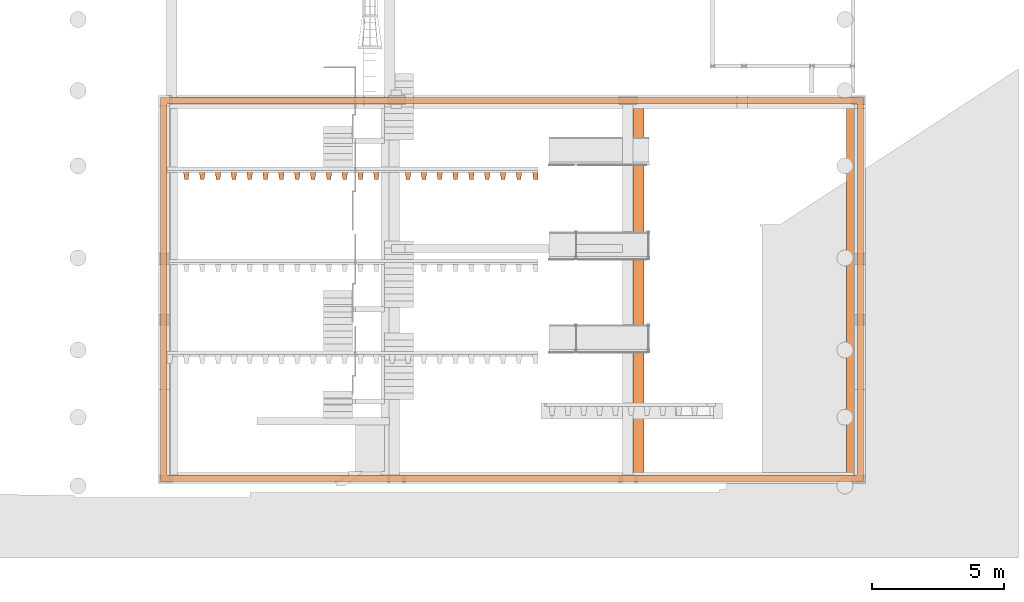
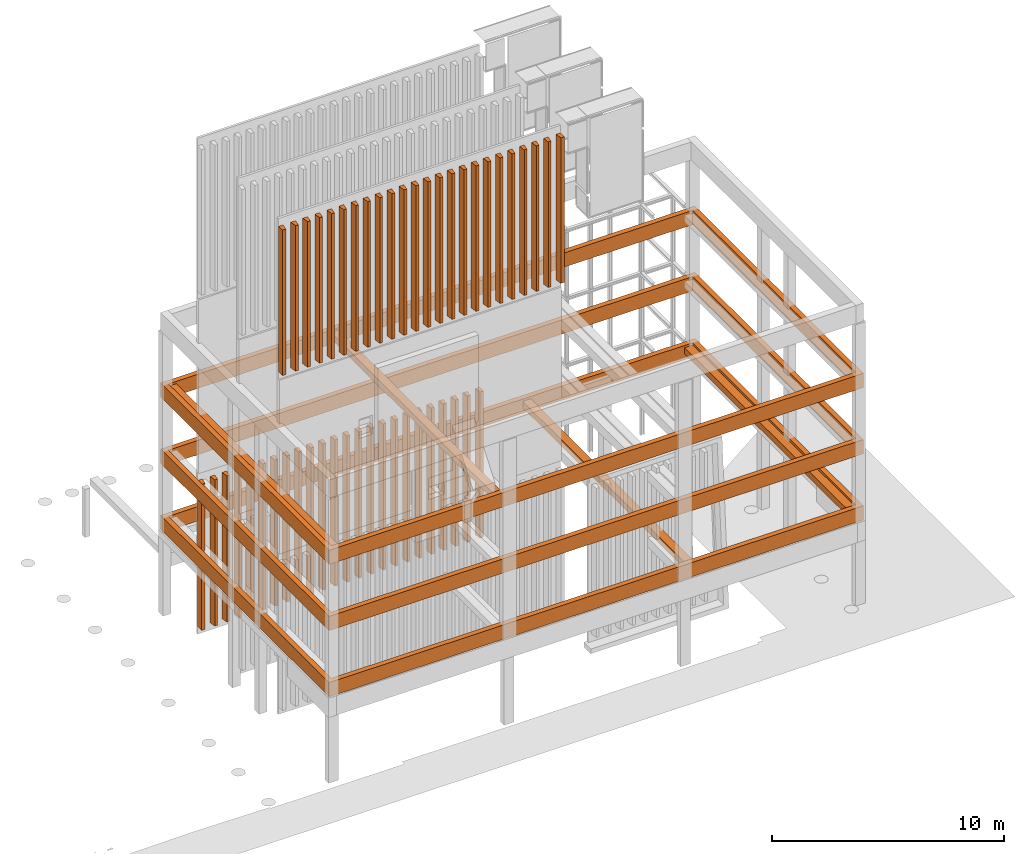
# One storey, part 13 of 15: 5 proxies.
"""IFC2X3 building model written with IfcOpenShell, lengths in metres."""

from ifc_helpers import new_model, entity, si_unit, converted_unit, derived_unit, money_unit, direction, frame, origin_with_axes, place, context, subcontext, project, spatial, faceted_brep, element, save


model = new_model("IFC2X3")

# Units and contexts
model_context = context("Model", 3, precision=1e-05, world=origin_with_axes(), true_north=direction((0.0, 1.0)))
body_context = subcontext(model_context, "Body", "Model", "MODEL_VIEW", scale=1.0)
ifc_project = project(units=[si_unit("LENGTHUNIT", "METRE"), si_unit("AREAUNIT", "SQUARE_METRE"), si_unit("VOLUMEUNIT", "CUBIC_METRE"), si_unit("ABSORBEDDOSEUNIT", "GRAY"), si_unit("AMOUNTOFSUBSTANCEUNIT", "MOLE"), si_unit("DOSEEQUIVALENTUNIT", "SIEVERT"), si_unit("ELECTRICCAPACITANCEUNIT", "FARAD"), si_unit("ELECTRICCHARGEUNIT", "COULOMB"), si_unit("ELECTRICCONDUCTANCEUNIT", "SIEMENS"), si_unit("ELECTRICCURRENTUNIT", "AMPERE"), si_unit("ELECTRICRESISTANCEUNIT", "OHM"), si_unit("ELECTRICVOLTAGEUNIT", "VOLT"), si_unit("ENERGYUNIT", "JOULE"), si_unit("FORCEUNIT", "NEWTON"), si_unit("FREQUENCYUNIT", "HERTZ"), si_unit("ILLUMINANCEUNIT", "LUX"), si_unit("INDUCTANCEUNIT", "HENRY"), si_unit("LUMINOUSFLUXUNIT", "LUMEN"), si_unit("LUMINOUSINTENSITYUNIT", "CANDELA"), si_unit("MAGNETICFLUXDENSITYUNIT", "TESLA"), si_unit("MAGNETICFLUXUNIT", "WEBER"), si_unit("MASSUNIT", "GRAM"), converted_unit("PLANEANGLEUNIT", "degree", entity("IfcReal", 0.0174532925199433), si_unit("PLANEANGLEUNIT", "RADIAN"), dimensions=[0, 0, 0, 0, 0, 0, 0]), si_unit("POWERUNIT", "WATT"), si_unit("PRESSUREUNIT", "PASCAL"), si_unit("RADIOACTIVITYUNIT", "BECQUEREL"), si_unit("SOLIDANGLEUNIT", "STERADIAN"), si_unit("THERMODYNAMICTEMPERATUREUNIT", "KELVIN"), si_unit("TIMEUNIT", "SECOND"), derived_unit("ACCELERATIONUNIT", [(si_unit("LENGTHUNIT", "METRE"), 1), (si_unit("TIMEUNIT", "SECOND"), -2)]), derived_unit("ANGULARVELOCITYUNIT", [(converted_unit("PLANEANGLEUNIT", "degree", entity("IfcReal", 0.0174532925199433), si_unit("PLANEANGLEUNIT", "RADIAN"), dimensions=[0, 0, 0, 0, 0, 0, 0]), 1), (si_unit("TIMEUNIT", "SECOND"), -1)]), derived_unit("CURVATUREUNIT", [(converted_unit("PLANEANGLEUNIT", "degree", entity("IfcReal", 0.0174532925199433), si_unit("PLANEANGLEUNIT", "RADIAN"), dimensions=[0, 0, 0, 0, 0, 0, 0]), 1), (si_unit("LENGTHUNIT", "METRE"), -1)]), derived_unit("DYNAMICVISCOSITYUNIT", [(si_unit("PRESSUREUNIT", "PASCAL"), 1), (si_unit("TIMEUNIT", "SECOND"), 1)]), derived_unit("HEATFLUXDENSITYUNIT", [(si_unit("POWERUNIT", "WATT"), 1), (si_unit("LENGTHUNIT", "METRE"), -2)]), derived_unit("HEATINGVALUEUNIT", [(si_unit("ENERGYUNIT", "JOULE"), 1), (si_unit("MASSUNIT", "GRAM"), -1)]), derived_unit("INTEGERCOUNTRATEUNIT", [(si_unit("TIMEUNIT", "SECOND"), -1)]), derived_unit("IONCONCENTRATIONUNIT", [(si_unit("MASSUNIT", "GRAM"), 1), (si_unit("VOLUMEUNIT", "CUBIC_METRE"), -1)]), derived_unit("ISOTHERMALMOISTURECAPACITYUNIT", [(si_unit("VOLUMEUNIT", "CUBIC_METRE"), 1), (si_unit("MASSUNIT", "GRAM"), -1)]), derived_unit("KINEMATICVISCOSITYUNIT", [(si_unit("AREAUNIT", "SQUARE_METRE"), 1), (si_unit("TIMEUNIT", "SECOND"), -1)]), derived_unit("LINEARFORCEUNIT", [(si_unit("FORCEUNIT", "NEWTON"), 1), (si_unit("LENGTHUNIT", "METRE"), -1)]), derived_unit("LINEARMOMENTUNIT", [(si_unit("FORCEUNIT", "NEWTON"), 1), (si_unit("LENGTHUNIT", "METRE"), -1)]), derived_unit("LINEARSTIFFNESSUNIT", [(si_unit("FORCEUNIT", "NEWTON"), 1), (si_unit("LENGTHUNIT", "METRE"), -1)]), derived_unit("LINEARVELOCITYUNIT", [(si_unit("LENGTHUNIT", "METRE"), 1), (si_unit("TIMEUNIT", "SECOND"), -1)]), derived_unit("LUMINOUSINTENSITYDISTRIBUTIONUNIT", [(si_unit("LUMINOUSINTENSITYUNIT", "CANDELA"), 1), (si_unit("LUMINOUSFLUXUNIT", "LUMEN"), -1)]), derived_unit("MASSDENSITYUNIT", [(si_unit("MASSUNIT", "GRAM"), 1), (si_unit("VOLUMEUNIT", "CUBIC_METRE"), -1)]), derived_unit("MASSFLOWRATEUNIT", [(si_unit("MASSUNIT", "GRAM"), 1), (si_unit("TIMEUNIT", "SECOND"), -1)]), derived_unit("MASSPERLENGTHUNIT", [(si_unit("MASSUNIT", "GRAM"), 1), (si_unit("LENGTHUNIT", "METRE"), -1)]), derived_unit("MODULUSOFELASTICITYUNIT", [(si_unit("FORCEUNIT", "NEWTON"), 1), (si_unit("AREAUNIT", "SQUARE_METRE"), -1)]), derived_unit("MODULUSOFLINEARSUBGRADEREACTIONUNIT", [(si_unit("FORCEUNIT", "NEWTON"), 1), (si_unit("LENGTHUNIT", "METRE"), -2)]), derived_unit("MODULUSOFROTATIONALSUBGRADEREACTIONUNIT", [(si_unit("FORCEUNIT", "NEWTON"), 1), (si_unit("LENGTHUNIT", "METRE"), 1)]), derived_unit("MODULUSOFSUBGRADEREACTIONUNIT", [(si_unit("FORCEUNIT", "NEWTON"), 1), (si_unit("VOLUMEUNIT", "CUBIC_METRE"), -1)]), derived_unit("MOISTUREDIFFUSIVITYUNIT", [(si_unit("VOLUMEUNIT", "CUBIC_METRE"), 1), (si_unit("TIMEUNIT", "SECOND"), -1)]), derived_unit("MOLECULARWEIGHTUNIT", [(si_unit("MASSUNIT", "GRAM"), 1), (si_unit("AMOUNTOFSUBSTANCEUNIT", "MOLE"), -1)]), derived_unit("PLANARFORCEUNIT", [(si_unit("FORCEUNIT", "NEWTON"), 1), (si_unit("LENGTHUNIT", "METRE"), -2)]), derived_unit("ROTATIONALFREQUENCYUNIT", [(si_unit("TIMEUNIT", "SECOND"), -1)]), derived_unit("ROTATIONALMASSUNIT", [(si_unit("MASSUNIT", "GRAM"), 1), (si_unit("LENGTHUNIT", "METRE"), 2)]), derived_unit("ROTATIONALSTIFFNESSUNIT", [(si_unit("FORCEUNIT", "NEWTON"), 1), (si_unit("LENGTHUNIT", "METRE"), 1), (converted_unit("PLANEANGLEUNIT", "degree", entity("IfcReal", 0.0174532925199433), si_unit("PLANEANGLEUNIT", "RADIAN"), dimensions=[0, 0, 0, 0, 0, 0, 0]), -1)]), derived_unit("SECTIONAREAINTEGRALUNIT", [(si_unit("LENGTHUNIT", "METRE"), 5)]), derived_unit("SECTIONMODULUSUNIT", [(si_unit("LENGTHUNIT", "METRE"), 3)]), derived_unit("SHEARMODULUSUNIT", [(si_unit("FORCEUNIT", "NEWTON"), 1), (si_unit("AREAUNIT", "SQUARE_METRE"), -1)]), derived_unit("SOUNDPOWERUNIT", [(si_unit("ENERGYUNIT", "JOULE"), 1), (si_unit("TIMEUNIT", "SECOND"), -1)]), derived_unit("SPECIFICHEATCAPACITYUNIT", [(si_unit("FORCEUNIT", "NEWTON"), 1), (si_unit("MASSUNIT", "GRAM"), -1), (si_unit("THERMODYNAMICTEMPERATUREUNIT", "KELVIN"), -1)]), derived_unit("TEMPERATUREGRADIENTUNIT", [(si_unit("THERMODYNAMICTEMPERATUREUNIT", "KELVIN"), 1), (si_unit("LENGTHUNIT", "METRE"), -1)]), derived_unit("THERMALADMITTANCEUNIT", [(si_unit("POWERUNIT", "WATT"), 1), (si_unit("AREAUNIT", "SQUARE_METRE"), -1), (si_unit("THERMODYNAMICTEMPERATUREUNIT", "KELVIN"), -1)]), derived_unit("THERMALCONDUCTANCEUNIT", [(si_unit("POWERUNIT", "WATT"), 1), (si_unit("LENGTHUNIT", "METRE"), -1), (si_unit("THERMODYNAMICTEMPERATUREUNIT", "KELVIN"), -1)]), derived_unit("THERMALEXPANSIONCOEFFICIENTUNIT", [(si_unit("THERMODYNAMICTEMPERATUREUNIT", "KELVIN"), -1)]), derived_unit("THERMALRESISTANCEUNIT", [(si_unit("AREAUNIT", "SQUARE_METRE"), 1), (si_unit("POWERUNIT", "WATT"), -1)]), derived_unit("THERMALTRANSMITTANCEUNIT", [(si_unit("POWERUNIT", "WATT"), 1), (si_unit("AREAUNIT", "SQUARE_METRE"), -1), (si_unit("THERMODYNAMICTEMPERATUREUNIT", "KELVIN"), -1)]), derived_unit("TORQUEUNIT", [(si_unit("FORCEUNIT", "NEWTON"), 1), (si_unit("LENGTHUNIT", "METRE"), 1)]), derived_unit("VAPORPERMEABILITYUNIT", [(si_unit("MASSUNIT", "GRAM"), 1), (si_unit("TIMEUNIT", "SECOND"), -1)]), derived_unit("VOLUMETRICFLOWRATEUNIT", [(si_unit("VOLUMEUNIT", "CUBIC_METRE"), 1), (si_unit("TIMEUNIT", "SECOND"), -1)]), derived_unit("WARPINGCONSTANTUNIT", [(si_unit("LENGTHUNIT", "METRE"), 6)]), derived_unit("WARPINGMOMENTUNIT", [(si_unit("FORCEUNIT", "NEWTON"), 1), (si_unit("LENGTHUNIT", "METRE"), 2)]), money_unit("GBP")], contexts=[model_context])

# Site, building, storey
site_placement = place(None, origin_with_axes())
site = spatial("IfcSite", under=ifc_project, at=site_placement, Name="Site", CompositionType="ELEMENT")
building_placement = place(site_placement, origin_with_axes())
building = spatial("IfcBuilding", under=site, at=building_placement, Name="Building01", CompositionType="ELEMENT")
storey_placement = place(building_placement, origin_with_axes())
storey = spatial("IfcBuildingStorey", under=building, at=storey_placement, Name="GF", CompositionType="ELEMENT", Elevation=0.0)

# Proxies
proxy_1_placement = place(storey_placement, frame((7.45, 8.214999, 13.49), z_axis=(0.0, 1.0, 0.0), x_axis=(0.0, 0.0, 1.0)))
element("IfcBuildingElementProxy", 1, at=proxy_1_placement, inside=storey, context=body_context, shape_type="Brep", body=[
    faceted_brep([(-5.65, 19.110001, -8.045), (-5.65, -7.03, -8.045), (-5.65, -7.03, -7.795), (-5.65, 19.110001, -7.795), (-4.9, 19.110001, -8.045), (-4.9, -7.03, -8.045), (-4.9, 19.110001, -7.795), (-4.9, -7.03, -7.795)], [[[0, 1, 2, 3]], [[4, 5, 1, 0]], [[6, 7, 5, 4]], [[3, 2, 7, 6]], [[1, 5, 7, 2]], [[3, 6, 4, 0]]]),
    faceted_brep([(-5.65, 19.360001, 6.515), (-5.65, 19.360001, -8.045), (-5.65, 19.110001, -8.045), (-5.65, 19.110001, 6.515), (-4.9, 19.360001, 6.515), (-4.9, 19.360001, -8.045), (-4.9, 19.110001, 6.515), (-4.9, 19.110001, -8.045)], [[[0, 1, 2, 3]], [[4, 5, 1, 0]], [[6, 7, 5, 4]], [[3, 2, 7, 6]], [[1, 5, 7, 2]], [[3, 6, 4, 0]]]),
    faceted_brep([(-5.65, 19.110001, 6.265), (-5.65, -7.03, 6.265), (-5.65, -7.03, 6.515), (-5.65, 19.110001, 6.515), (-4.9, 19.110001, 6.265), (-4.9, -7.03, 6.265), (-4.9, 19.110001, 6.515), (-4.9, -7.03, 6.515)], [[[0, 1, 2, 3]], [[4, 5, 1, 0]], [[6, 7, 5, 4]], [[3, 2, 7, 6]], [[1, 5, 7, 2]], [[3, 6, 4, 0]]]),
    faceted_brep([(-5.65, -7.03, 6.515), (-5.65, -7.03, -8.045), (-5.65, -7.28, -8.045), (-5.65, -7.28, 6.515), (-4.9, -7.03, 6.515), (-4.9, -7.03, -8.045), (-4.9, -7.28, 6.515), (-4.9, -7.28, -8.045)], [[[0, 1, 2, 3]], [[4, 5, 1, 0]], [[6, 7, 5, 4]], [[3, 2, 7, 6]], [[1, 5, 7, 2]], [[3, 6, 4, 0]]]),
])
proxy_2_placement = place(storey_placement, frame((7.45, 4.725, 13.49), z_axis=(0.0, 1.0, 0.0), x_axis=(0.0, 0.0, 1.0)))
element("IfcBuildingElementProxy", 2, at=proxy_2_placement, inside=storey, context=body_context, shape_type="Brep", body=[
    faceted_brep([(-9.14, -7.03, 10.005), (-9.14, -7.03, -4.555), (-9.14, -7.28, -4.555), (-9.14, -7.28, 10.005), (-8.39, -7.03, 10.005), (-8.39, -7.03, -4.555), (-8.39, -7.28, 10.005), (-8.39, -7.28, -4.555)], [[[0, 1, 2, 3]], [[4, 5, 1, 0]], [[6, 7, 5, 4]], [[3, 2, 7, 6]], [[1, 5, 7, 2]], [[3, 6, 4, 0]]]),
    faceted_brep([(-9.14, 19.110001, 9.755), (-9.14, -7.03, 9.755), (-9.14, -7.03, 10.005), (-9.14, 19.110001, 10.005), (-8.39, 19.110001, 9.755), (-8.39, -7.03, 9.755), (-8.39, 19.110001, 10.005), (-8.39, -7.03, 10.005)], [[[0, 1, 2, 3]], [[4, 5, 1, 0]], [[6, 7, 5, 4]], [[3, 2, 7, 6]], [[1, 5, 7, 2]], [[3, 6, 4, 0]]]),
    faceted_brep([(-9.14, 19.110001, -4.555), (-9.14, -7.03, -4.555), (-9.14, -7.03, -4.305), (-9.14, 19.110001, -4.305), (-8.39, 19.110001, -4.555), (-8.39, -7.03, -4.555), (-8.39, 19.110001, -4.305), (-8.39, -7.03, -4.305)], [[[0, 1, 2, 3]], [[4, 5, 1, 0]], [[6, 7, 5, 4]], [[3, 2, 7, 6]], [[1, 5, 7, 2]], [[3, 6, 4, 0]]]),
    faceted_brep([(-9.14, 19.360001, 10.005), (-9.14, 19.360001, -4.555), (-9.14, 19.110001, -4.555), (-9.14, 19.110001, 10.005), (-8.39, 19.360001, 10.005), (-8.39, 19.360001, -4.555), (-8.39, 19.110001, 10.005), (-8.39, 19.110001, -4.555)], [[[0, 1, 2, 3]], [[4, 5, 1, 0]], [[6, 7, 5, 4]], [[3, 2, 7, 6]], [[1, 5, 7, 2]], [[3, 6, 4, 0]]]),
])
proxy_3_placement = place(storey_placement, frame((7.45, 11.705, 13.49), z_axis=(0.0, 1.0, 0.0), x_axis=(0.0, 0.0, 1.0)))
element("IfcBuildingElementProxy", 3, at=proxy_3_placement, inside=storey, context=body_context, shape_type="Brep", body=[
    faceted_brep([(-2.16, 19.110001, -11.535), (-2.16, -7.03, -11.535), (-2.16, -7.03, -11.285), (-2.16, 19.110001, -11.285), (-1.41, 19.110001, -11.535), (-1.41, -7.03, -11.535), (-1.41, 19.110001, -11.285), (-1.41, -7.03, -11.285)], [[[0, 1, 2, 3]], [[4, 5, 1, 0]], [[6, 7, 5, 4]], [[3, 2, 7, 6]], [[1, 5, 7, 2]], [[3, 6, 4, 0]]]),
    faceted_brep([(-2.16, -7.03, 3.025), (-2.16, -7.03, -11.535), (-2.16, -7.28, -11.535), (-2.16, -7.28, 3.025), (-1.41, -7.03, 3.025), (-1.41, -7.03, -11.535), (-1.41, -7.28, 3.025), (-1.41, -7.28, -11.535)], [[[0, 1, 2, 3]], [[4, 5, 1, 0]], [[6, 7, 5, 4]], [[3, 2, 7, 6]], [[1, 5, 7, 2]], [[3, 6, 4, 0]]]),
    faceted_brep([(-2.16, 19.110001, 2.775), (-2.16, -7.03, 2.775), (-2.16, -7.03, 3.025), (-2.16, 19.110001, 3.025), (-1.41, 19.110001, 2.775), (-1.41, -7.03, 2.775), (-1.41, 19.110001, 3.025), (-1.41, -7.03, 3.025)], [[[0, 1, 2, 3]], [[4, 5, 1, 0]], [[6, 7, 5, 4]], [[3, 2, 7, 6]], [[1, 5, 7, 2]], [[3, 6, 4, 0]]]),
    faceted_brep([(-2.16, 19.360001, 3.025), (-2.16, 19.360001, -11.535), (-2.16, 19.110001, -11.535), (-2.16, 19.110001, 3.025), (-1.41, 19.360001, 3.025), (-1.41, 19.360001, -11.535), (-1.41, 19.110001, 3.025), (-1.41, 19.110001, -11.535)], [[[0, 1, 2, 3]], [[4, 5, 1, 0]], [[6, 7, 5, 4]], [[3, 2, 7, 6]], [[1, 5, 7, 2]], [[3, 6, 4, 0]]]),
])
proxy_4_placement = place(storey_placement, frame((7.45, 4.81, 22.322501), z_axis=(0.0, 1.0, 0.0), x_axis=(0.0, 0.0, 1.0)))
element("IfcBuildingElementProxy", 4, at=proxy_4_placement, inside=storey, context=body_context, shape_type="Brep", body=[
    faceted_brep([(-3.839638, -7.03, -0.17), (3.8375, -7.03, -0.17), (3.8375, -7.03, 0.17), (-3.839638, -7.03, 0.17), (-3.839638, -6.858571, -0.17), (3.8375, -6.858571, -0.17), (-3.839638, -6.81, 0.17), (3.8375, -6.81, 0.17)], [[[0, 1, 2, 3]], [[4, 5, 1, 0]], [[6, 7, 5, 4]], [[3, 2, 7, 6]], [[1, 5, 7, 2]], [[3, 6, 4, 0]]]),
    faceted_brep([(-3.839638, 1.428572, -0.17), (3.8375, 1.428572, -0.17), (3.8375, 1.38, 0.17), (-3.839638, 1.38, 0.17), (-3.839638, 1.571429, -0.17), (3.8375, 1.571429, -0.17), (-3.839638, 1.62, 0.17), (3.8375, 1.62, 0.17)], [[[0, 1, 2, 3]], [[4, 5, 1, 0]], [[6, 7, 5, 4]], [[3, 2, 7, 6]], [[1, 5, 7, 2]], [[3, 6, 4, 0]]]),
    faceted_brep([(-3.839638, 0.828572, -0.17), (3.8375, 0.828572, -0.17), (3.8375, 0.78, 0.17), (-3.839638, 0.78, 0.17), (-3.839638, 0.971429, -0.17), (3.8375, 0.971429, -0.17), (-3.839638, 1.02, 0.17), (3.8375, 1.02, 0.17)], [[[0, 1, 2, 3]], [[4, 5, 1, 0]], [[6, 7, 5, 4]], [[3, 2, 7, 6]], [[1, 5, 7, 2]], [[3, 6, 4, 0]]]),
    faceted_brep([(-3.839638, -0.371428, -0.17), (3.8375, -0.371428, -0.17), (3.8375, -0.42, 0.17), (-3.839638, -0.42, 0.17), (-3.839638, -0.228571, -0.17), (3.8375, -0.228571, -0.17), (-3.839638, -0.18, 0.17), (3.8375, -0.18, 0.17)], [[[0, 1, 2, 3]], [[4, 5, 1, 0]], [[6, 7, 5, 4]], [[3, 2, 7, 6]], [[1, 5, 7, 2]], [[3, 6, 4, 0]]]),
    faceted_brep([(-3.839638, -0.971428, -0.17), (3.8375, -0.971428, -0.17), (3.8375, -1.02, 0.17), (-3.839638, -1.02, 0.17), (-3.839638, -0.828571, -0.17), (3.8375, -0.828571, -0.17), (-3.839638, -0.78, 0.17), (3.8375, -0.78, 0.17)], [[[0, 1, 2, 3]], [[4, 5, 1, 0]], [[6, 7, 5, 4]], [[3, 2, 7, 6]], [[1, 5, 7, 2]], [[3, 6, 4, 0]]]),
    faceted_brep([(-3.839638, 0.228572, -0.17), (3.8375, 0.228572, -0.17), (3.8375, 0.18, 0.17), (-3.839638, 0.18, 0.17), (-3.839638, 0.371429, -0.17), (3.8375, 0.371429, -0.17), (-3.839638, 0.42, 0.17), (3.8375, 0.42, 0.17)], [[[0, 1, 2, 3]], [[4, 5, 1, 0]], [[6, 7, 5, 4]], [[3, 2, 7, 6]], [[1, 5, 7, 2]], [[3, 6, 4, 0]]]),
    faceted_brep([(-3.839638, -2.171428, -0.17), (3.8375, -2.171428, -0.17), (3.8375, -2.22, 0.17), (-3.839638, -2.22, 0.17), (-3.839638, -2.028571, -0.17), (3.8375, -2.028571, -0.17), (-3.839638, -1.98, 0.17), (3.8375, -1.98, 0.17)], [[[0, 1, 2, 3]], [[4, 5, 1, 0]], [[6, 7, 5, 4]], [[3, 2, 7, 6]], [[1, 5, 7, 2]], [[3, 6, 4, 0]]]),
    faceted_brep([(-3.839638, -2.771428, -0.17), (3.8375, -2.771428, -0.17), (3.8375, -2.82, 0.17), (-3.839638, -2.82, 0.17), (-3.839638, -2.628571, -0.17), (3.8375, -2.628571, -0.17), (-3.839638, -2.58, 0.17), (3.8375, -2.58, 0.17)], [[[0, 1, 2, 3]], [[4, 5, 1, 0]], [[6, 7, 5, 4]], [[3, 2, 7, 6]], [[1, 5, 7, 2]], [[3, 6, 4, 0]]]),
    faceted_brep([(-3.839638, -1.571428, -0.17), (3.8375, -1.571428, -0.17), (3.8375, -1.62, 0.17), (-3.839638, -1.62, 0.17), (-3.839638, -1.428571, -0.17), (3.8375, -1.428571, -0.17), (-3.839638, -1.38, 0.17), (3.8375, -1.38, 0.17)], [[[0, 1, 2, 3]], [[4, 5, 1, 0]], [[6, 7, 5, 4]], [[3, 2, 7, 6]], [[1, 5, 7, 2]], [[3, 6, 4, 0]]]),
    faceted_brep([(-3.839638, -3.971428, -0.17), (3.8375, -3.971428, -0.17), (3.8375, -4.02, 0.17), (-3.839638, -4.02, 0.17), (-3.839638, -3.828571, -0.17), (3.8375, -3.828571, -0.17), (-3.839638, -3.78, 0.17), (3.8375, -3.78, 0.17)], [[[0, 1, 2, 3]], [[4, 5, 1, 0]], [[6, 7, 5, 4]], [[3, 2, 7, 6]], [[1, 5, 7, 2]], [[3, 6, 4, 0]]]),
    faceted_brep([(-3.839638, -4.571428, -0.17), (3.8375, -4.571428, -0.17), (3.8375, -4.62, 0.17), (-3.839638, -4.62, 0.17), (-3.839638, -4.428571, -0.17), (3.8375, -4.428571, -0.17), (-3.839638, -4.38, 0.17), (3.8375, -4.38, 0.17)], [[[0, 1, 2, 3]], [[4, 5, 1, 0]], [[6, 7, 5, 4]], [[3, 2, 7, 6]], [[1, 5, 7, 2]], [[3, 6, 4, 0]]]),
    faceted_brep([(-3.839638, -3.371428, -0.17), (3.8375, -3.371428, -0.17), (3.8375, -3.42, 0.17), (-3.839638, -3.42, 0.17), (-3.839638, -3.228571, -0.17), (3.8375, -3.228571, -0.17), (-3.839638, -3.18, 0.17), (3.8375, -3.18, 0.17)], [[[0, 1, 2, 3]], [[4, 5, 1, 0]], [[6, 7, 5, 4]], [[3, 2, 7, 6]], [[1, 5, 7, 2]], [[3, 6, 4, 0]]]),
    faceted_brep([(-3.839638, -5.771428, -0.17), (3.8375, -5.771428, -0.17), (3.8375, -5.82, 0.17), (-3.839638, -5.82, 0.17), (-3.839638, -5.628571, -0.17), (3.8375, -5.628571, -0.17), (-3.839638, -5.58, 0.17), (3.8375, -5.58, 0.17)], [[[0, 1, 2, 3]], [[4, 5, 1, 0]], [[6, 7, 5, 4]], [[3, 2, 7, 6]], [[1, 5, 7, 2]], [[3, 6, 4, 0]]]),
    faceted_brep([(-3.839638, -6.371428, -0.17), (3.8375, -6.371428, -0.17), (3.8375, -6.42, 0.17), (-3.839638, -6.42, 0.17), (-3.839638, -6.228571, -0.17), (3.8375, -6.228571, -0.17), (-3.839638, -6.18, 0.17), (3.8375, -6.18, 0.17)], [[[0, 1, 2, 3]], [[4, 5, 1, 0]], [[6, 7, 5, 4]], [[3, 2, 7, 6]], [[1, 5, 7, 2]], [[3, 6, 4, 0]]]),
    faceted_brep([(-3.839638, -5.171428, -0.17), (3.8375, -5.171428, -0.17), (3.8375, -5.22, 0.17), (-3.839638, -5.22, 0.17), (-3.839638, -5.028571, -0.17), (3.8375, -5.028571, -0.17), (-3.839638, -4.98, 0.17), (3.8375, -4.98, 0.17)], [[[0, 1, 2, 3]], [[4, 5, 1, 0]], [[6, 7, 5, 4]], [[3, 2, 7, 6]], [[1, 5, 7, 2]], [[3, 6, 4, 0]]]),
    faceted_brep([(-3.839638, 7.03, 0.17), (3.8375, 7.03, 0.17), (3.8375, 7.03, -0.17), (-3.839638, 7.03, -0.17), (-3.839638, 6.81, 0.17), (3.8375, 6.81, 0.17), (-3.839638, 6.858572, -0.17), (3.8375, 6.858572, -0.17)], [[[0, 1, 2, 3]], [[4, 5, 1, 0]], [[6, 7, 5, 4]], [[3, 2, 7, 6]], [[1, 5, 7, 2]], [[3, 6, 4, 0]]]),
    faceted_brep([(-3.839638, 5.028572, -0.17), (3.8375, 5.028572, -0.17), (3.8375, 4.98, 0.17), (-3.839638, 4.98, 0.17), (-3.839638, 5.171429, -0.17), (3.8375, 5.171429, -0.17), (-3.839638, 5.22, 0.17), (3.8375, 5.22, 0.17)], [[[0, 1, 2, 3]], [[4, 5, 1, 0]], [[6, 7, 5, 4]], [[3, 2, 7, 6]], [[1, 5, 7, 2]], [[3, 6, 4, 0]]]),
    faceted_brep([(-3.839638, 4.428572, -0.17), (3.8375, 4.428572, -0.17), (3.8375, 4.38, 0.17), (-3.839638, 4.38, 0.17), (-3.839638, 4.571429, -0.17), (3.8375, 4.571429, -0.17), (-3.839638, 4.62, 0.17), (3.8375, 4.62, 0.17)], [[[0, 1, 2, 3]], [[4, 5, 1, 0]], [[6, 7, 5, 4]], [[3, 2, 7, 6]], [[1, 5, 7, 2]], [[3, 6, 4, 0]]]),
    faceted_brep([(-3.839638, 6.228572, -0.17), (3.8375, 6.228572, -0.17), (3.8375, 6.18, 0.17), (-3.839638, 6.18, 0.17), (-3.839638, 6.371429, -0.17), (3.8375, 6.371429, -0.17), (-3.839638, 6.42, 0.17), (3.8375, 6.42, 0.17)], [[[0, 1, 2, 3]], [[4, 5, 1, 0]], [[6, 7, 5, 4]], [[3, 2, 7, 6]], [[1, 5, 7, 2]], [[3, 6, 4, 0]]]),
    faceted_brep([(-3.839638, 5.628572, -0.17), (3.8375, 5.628572, -0.17), (3.8375, 5.58, 0.17), (-3.839638, 5.58, 0.17), (-3.839638, 5.771429, -0.17), (3.8375, 5.771429, -0.17), (-3.839638, 5.82, 0.17), (3.8375, 5.82, 0.17)], [[[0, 1, 2, 3]], [[4, 5, 1, 0]], [[6, 7, 5, 4]], [[3, 2, 7, 6]], [[1, 5, 7, 2]], [[3, 6, 4, 0]]]),
    faceted_brep([(-3.839638, 3.228572, -0.17), (3.8375, 3.228572, -0.17), (3.8375, 3.18, 0.17), (-3.839638, 3.18, 0.17), (-3.839638, 3.371429, -0.17), (3.8375, 3.371429, -0.17), (-3.839638, 3.42, 0.17), (3.8375, 3.42, 0.17)], [[[0, 1, 2, 3]], [[4, 5, 1, 0]], [[6, 7, 5, 4]], [[3, 2, 7, 6]], [[1, 5, 7, 2]], [[3, 6, 4, 0]]]),
    faceted_brep([(-3.839638, 2.628572, -0.17), (3.8375, 2.628572, -0.17), (3.8375, 2.58, 0.17), (-3.839638, 2.58, 0.17), (-3.839638, 2.771429, -0.17), (3.8375, 2.771429, -0.17), (-3.839638, 2.82, 0.17), (3.8375, 2.82, 0.17)], [[[0, 1, 2, 3]], [[4, 5, 1, 0]], [[6, 7, 5, 4]], [[3, 2, 7, 6]], [[1, 5, 7, 2]], [[3, 6, 4, 0]]]),
    faceted_brep([(-3.839638, 3.828572, -0.17), (3.8375, 3.828572, -0.17), (3.8375, 3.78, 0.17), (-3.839638, 3.78, 0.17), (-3.839638, 3.971429, -0.17), (3.8375, 3.971429, -0.17), (-3.839638, 4.02, 0.17), (3.8375, 4.02, 0.17)], [[[0, 1, 2, 3]], [[4, 5, 1, 0]], [[6, 7, 5, 4]], [[3, 2, 7, 6]], [[1, 5, 7, 2]], [[3, 6, 4, 0]]]),
    faceted_brep([(-3.839638, 2.028572, -0.17), (3.8375, 2.028572, -0.17), (3.8375, 1.98, 0.17), (-3.839638, 1.98, 0.17), (-3.839638, 2.171429, -0.17), (3.8375, 2.171429, -0.17), (-3.839638, 2.22, 0.17), (3.8375, 2.22, 0.17)], [[[0, 1, 2, 3]], [[4, 5, 1, 0]], [[6, 7, 5, 4]], [[3, 2, 7, 6]], [[1, 5, 7, 2]], [[3, 6, 4, 0]]]),
    faceted_brep([(-17.682501, 19.110001, 9.67), (-17.682501, 19.110001, -4.39), (-17.682501, 18.710001, -4.39), (-17.682501, 18.710001, 9.67), (-17.342501, 19.110001, 9.67), (-17.342501, 19.110001, -4.39), (-17.342501, 18.710001, 9.67), (-17.342501, 18.710001, -4.39)], [[[0, 1, 2, 3]], [[4, 5, 1, 0]], [[6, 7, 5, 4]], [[3, 2, 7, 6]], [[1, 5, 7, 2]], [[3, 6, 4, 0]]]),
    faceted_brep([(-17.682501, 11.035001, 9.67), (-17.682501, 11.035001, -4.39), (-17.682501, 10.635001, -4.39), (-17.682501, 10.635001, 9.67), (-17.342501, 11.035001, 9.67), (-17.342501, 11.035001, -4.39), (-17.342501, 10.635001, 9.67), (-17.342501, 10.635001, -4.39)], [[[0, 1, 2, 3]], [[4, 5, 1, 0]], [[6, 7, 5, 4]], [[3, 2, 7, 6]], [[1, 5, 7, 2]], [[3, 6, 4, 0]]]),
])
proxy_5_placement = place(storey_placement, frame((7.45, 11.79, 4.6725), z_axis=(0.0, 1.0, 0.0), x_axis=(0.0, 0.0, 1.0)))
element("IfcBuildingElementProxy", 5, at=proxy_5_placement, inside=storey, context=body_context, shape_type="Brep", body=[
    faceted_brep([(6.9475, -6.63, 2.69), (6.9475, -6.63, -11.37), (6.9475, -7.03, -11.37), (6.9475, -7.03, 2.69), (7.2875, -6.63, 2.69), (7.2875, -6.63, -11.37), (7.2875, -7.03, 2.69), (7.2875, -7.03, -11.37)], [[[0, 1, 2, 3]], [[4, 5, 1, 0]], [[6, 7, 5, 4]], [[3, 2, 7, 6]], [[1, 5, 7, 2]], [[3, 6, 4, 0]]]),
    faceted_brep([(-3.8525, -7.03, -0.17), (3.8525, -7.03, -0.17), (3.8525, -7.03, 0.17), (-3.8525, -7.03, 0.17), (-3.8525, -6.858571, -0.17), (3.8525, -6.858571, -0.17), (-3.8525, -6.81, 0.17), (3.8525, -6.81, 0.17)], [[[0, 1, 2, 3]], [[4, 5, 1, 0]], [[6, 7, 5, 4]], [[3, 2, 7, 6]], [[1, 5, 7, 2]], [[3, 6, 4, 0]]]),
    faceted_brep([(-3.8525, 7.03, 0.17), (3.8525, 7.03, 0.17), (3.8525, 7.03, -0.17), (-3.8525, 7.03, -0.17), (-3.8525, 6.81, 0.17), (3.8525, 6.81, 0.17), (-3.8525, 6.858572, -0.17), (3.8525, 6.858572, -0.17)], [[[0, 1, 2, 3]], [[4, 5, 1, 0]], [[6, 7, 5, 4]], [[3, 2, 7, 6]], [[1, 5, 7, 2]], [[3, 6, 4, 0]]]),
    faceted_brep([(-3.8525, 5.028572, -0.17), (3.8525, 5.028572, -0.17), (3.8525, 4.98, 0.17), (-3.8525, 4.98, 0.17), (-3.8525, 5.171429, -0.17), (3.8525, 5.171429, -0.17), (-3.8525, 5.22, 0.17), (3.8525, 5.22, 0.17)], [[[0, 1, 2, 3]], [[4, 5, 1, 0]], [[6, 7, 5, 4]], [[3, 2, 7, 6]], [[1, 5, 7, 2]], [[3, 6, 4, 0]]]),
    faceted_brep([(-3.8525, 4.428572, -0.17), (3.8525, 4.428572, -0.17), (3.8525, 4.38, 0.17), (-3.8525, 4.38, 0.17), (-3.8525, 4.571429, -0.17), (3.8525, 4.571429, -0.17), (-3.8525, 4.62, 0.17), (3.8525, 4.62, 0.17)], [[[0, 1, 2, 3]], [[4, 5, 1, 0]], [[6, 7, 5, 4]], [[3, 2, 7, 6]], [[1, 5, 7, 2]], [[3, 6, 4, 0]]]),
    faceted_brep([(-3.8525, 6.228572, -0.17), (3.8525, 6.228572, -0.17), (3.8525, 6.18, 0.17), (-3.8525, 6.18, 0.17), (-3.8525, 6.371429, -0.17), (3.8525, 6.371429, -0.17), (-3.8525, 6.42, 0.17), (3.8525, 6.42, 0.17)], [[[0, 1, 2, 3]], [[4, 5, 1, 0]], [[6, 7, 5, 4]], [[3, 2, 7, 6]], [[1, 5, 7, 2]], [[3, 6, 4, 0]]]),
    faceted_brep([(-3.8525, 5.628572, -0.17), (3.8525, 5.628572, -0.17), (3.8525, 5.58, 0.17), (-3.8525, 5.58, 0.17), (-3.8525, 5.771429, -0.17), (3.8525, 5.771429, -0.17), (-3.8525, 5.82, 0.17), (3.8525, 5.82, 0.17)], [[[0, 1, 2, 3]], [[4, 5, 1, 0]], [[6, 7, 5, 4]], [[3, 2, 7, 6]], [[1, 5, 7, 2]], [[3, 6, 4, 0]]]),
    faceted_brep([(-3.8525, 3.228572, -0.17), (3.8525, 3.228572, -0.17), (3.8525, 3.18, 0.17), (-3.8525, 3.18, 0.17), (-3.8525, 3.371429, -0.17), (3.8525, 3.371429, -0.17), (-3.8525, 3.42, 0.17), (3.8525, 3.42, 0.17)], [[[0, 1, 2, 3]], [[4, 5, 1, 0]], [[6, 7, 5, 4]], [[3, 2, 7, 6]], [[1, 5, 7, 2]], [[3, 6, 4, 0]]]),
    faceted_brep([(-3.8525, 2.628572, -0.17), (3.8525, 2.628572, -0.17), (3.8525, 2.58, 0.17), (-3.8525, 2.58, 0.17), (-3.8525, 2.771429, -0.17), (3.8525, 2.771429, -0.17), (-3.8525, 2.82, 0.17), (3.8525, 2.82, 0.17)], [[[0, 1, 2, 3]], [[4, 5, 1, 0]], [[6, 7, 5, 4]], [[3, 2, 7, 6]], [[1, 5, 7, 2]], [[3, 6, 4, 0]]]),
    faceted_brep([(-3.8525, 3.828572, -0.17), (3.8525, 3.828572, -0.17), (3.8525, 3.78, 0.17), (-3.8525, 3.78, 0.17), (-3.8525, 3.971429, -0.17), (3.8525, 3.971429, -0.17), (-3.8525, 4.02, 0.17), (3.8525, 4.02, 0.17)], [[[0, 1, 2, 3]], [[4, 5, 1, 0]], [[6, 7, 5, 4]], [[3, 2, 7, 6]], [[1, 5, 7, 2]], [[3, 6, 4, 0]]]),
    faceted_brep([(-3.8525, 1.428572, -0.17), (3.8525, 1.428572, -0.17), (3.8525, 1.38, 0.17), (-3.8525, 1.38, 0.17), (-3.8525, 1.571429, -0.17), (3.8525, 1.571429, -0.17), (-3.8525, 1.62, 0.17), (3.8525, 1.62, 0.17)], [[[0, 1, 2, 3]], [[4, 5, 1, 0]], [[6, 7, 5, 4]], [[3, 2, 7, 6]], [[1, 5, 7, 2]], [[3, 6, 4, 0]]]),
    faceted_brep([(-3.8525, 0.828572, -0.17), (3.8525, 0.828572, -0.17), (3.8525, 0.78, 0.17), (-3.8525, 0.78, 0.17), (-3.8525, 0.971429, -0.17), (3.8525, 0.971429, -0.17), (-3.8525, 1.02, 0.17), (3.8525, 1.02, 0.17)], [[[0, 1, 2, 3]], [[4, 5, 1, 0]], [[6, 7, 5, 4]], [[3, 2, 7, 6]], [[1, 5, 7, 2]], [[3, 6, 4, 0]]]),
    faceted_brep([(-3.8525, 2.028572, -0.17), (3.8525, 2.028572, -0.17), (3.8525, 1.98, 0.17), (-3.8525, 1.98, 0.17), (-3.8525, 2.171429, -0.17), (3.8525, 2.171429, -0.17), (-3.8525, 2.22, 0.17), (3.8525, 2.22, 0.17)], [[[0, 1, 2, 3]], [[4, 5, 1, 0]], [[6, 7, 5, 4]], [[3, 2, 7, 6]], [[1, 5, 7, 2]], [[3, 6, 4, 0]]]),
    faceted_brep([(-3.8525, -0.371428, -0.17), (3.8525, -0.371428, -0.17), (3.8525, -0.42, 0.17), (-3.8525, -0.42, 0.17), (-3.8525, -0.228571, -0.17), (3.8525, -0.228571, -0.17), (-3.8525, -0.18, 0.17), (3.8525, -0.18, 0.17)], [[[0, 1, 2, 3]], [[4, 5, 1, 0]], [[6, 7, 5, 4]], [[3, 2, 7, 6]], [[1, 5, 7, 2]], [[3, 6, 4, 0]]]),
    faceted_brep([(-3.8525, -0.971428, -0.17), (3.8525, -0.971428, -0.17), (3.8525, -1.02, 0.17), (-3.8525, -1.02, 0.17), (-3.8525, -0.828571, -0.17), (3.8525, -0.828571, -0.17), (-3.8525, -0.78, 0.17), (3.8525, -0.78, 0.17)], [[[0, 1, 2, 3]], [[4, 5, 1, 0]], [[6, 7, 5, 4]], [[3, 2, 7, 6]], [[1, 5, 7, 2]], [[3, 6, 4, 0]]]),
    faceted_brep([(-3.8525, 0.228572, -0.17), (3.8525, 0.228572, -0.17), (3.8525, 0.18, 0.17), (-3.8525, 0.18, 0.17), (-3.8525, 0.371429, -0.17), (3.8525, 0.371429, -0.17), (-3.8525, 0.42, 0.17), (3.8525, 0.42, 0.17)], [[[0, 1, 2, 3]], [[4, 5, 1, 0]], [[6, 7, 5, 4]], [[3, 2, 7, 6]], [[1, 5, 7, 2]], [[3, 6, 4, 0]]]),
    faceted_brep([(-3.8525, -2.171428, -0.17), (3.8525, -2.171428, -0.17), (3.8525, -2.22, 0.17), (-3.8525, -2.22, 0.17), (-3.8525, -2.028571, -0.17), (3.8525, -2.028571, -0.17), (-3.8525, -1.98, 0.17), (3.8525, -1.98, 0.17)], [[[0, 1, 2, 3]], [[4, 5, 1, 0]], [[6, 7, 5, 4]], [[3, 2, 7, 6]], [[1, 5, 7, 2]], [[3, 6, 4, 0]]]),
    faceted_brep([(-3.8525, -2.771428, -0.17), (3.8525, -2.771428, -0.17), (3.8525, -2.82, 0.17), (-3.8525, -2.82, 0.17), (-3.8525, -2.628571, -0.17), (3.8525, -2.628571, -0.17), (-3.8525, -2.58, 0.17), (3.8525, -2.58, 0.17)], [[[0, 1, 2, 3]], [[4, 5, 1, 0]], [[6, 7, 5, 4]], [[3, 2, 7, 6]], [[1, 5, 7, 2]], [[3, 6, 4, 0]]]),
    faceted_brep([(-3.8525, -1.571428, -0.17), (3.8525, -1.571428, -0.17), (3.8525, -1.62, 0.17), (-3.8525, -1.62, 0.17), (-3.8525, -1.428571, -0.17), (3.8525, -1.428571, -0.17), (-3.8525, -1.38, 0.17), (3.8525, -1.38, 0.17)], [[[0, 1, 2, 3]], [[4, 5, 1, 0]], [[6, 7, 5, 4]], [[3, 2, 7, 6]], [[1, 5, 7, 2]], [[3, 6, 4, 0]]]),
    faceted_brep([(-3.8525, -3.971428, -0.17), (3.8525, -3.971428, -0.17), (3.8525, -4.02, 0.17), (-3.8525, -4.02, 0.17), (-3.8525, -3.828571, -0.17), (3.8525, -3.828571, -0.17), (-3.8525, -3.78, 0.17), (3.8525, -3.78, 0.17)], [[[0, 1, 2, 3]], [[4, 5, 1, 0]], [[6, 7, 5, 4]], [[3, 2, 7, 6]], [[1, 5, 7, 2]], [[3, 6, 4, 0]]]),
    faceted_brep([(-3.8525, -4.571428, -0.17), (3.8525, -4.571428, -0.17), (3.8525, -4.62, 0.17), (-3.8525, -4.62, 0.17), (-3.8525, -4.428571, -0.17), (3.8525, -4.428571, -0.17), (-3.8525, -4.38, 0.17), (3.8525, -4.38, 0.17)], [[[0, 1, 2, 3]], [[4, 5, 1, 0]], [[6, 7, 5, 4]], [[3, 2, 7, 6]], [[1, 5, 7, 2]], [[3, 6, 4, 0]]]),
    faceted_brep([(-3.8525, -3.371428, -0.17), (3.8525, -3.371428, -0.17), (3.8525, -3.42, 0.17), (-3.8525, -3.42, 0.17), (-3.8525, -3.228571, -0.17), (3.8525, -3.228571, -0.17), (-3.8525, -3.18, 0.17), (3.8525, -3.18, 0.17)], [[[0, 1, 2, 3]], [[4, 5, 1, 0]], [[6, 7, 5, 4]], [[3, 2, 7, 6]], [[1, 5, 7, 2]], [[3, 6, 4, 0]]]),
    faceted_brep([(-3.8525, -5.771428, -0.17), (3.8525, -5.771428, -0.17), (3.8525, -5.82, 0.17), (-3.8525, -5.82, 0.17), (-3.8525, -5.628571, -0.17), (3.8525, -5.628571, -0.17), (-3.8525, -5.58, 0.17), (3.8525, -5.58, 0.17)], [[[0, 1, 2, 3]], [[4, 5, 1, 0]], [[6, 7, 5, 4]], [[3, 2, 7, 6]], [[1, 5, 7, 2]], [[3, 6, 4, 0]]]),
    faceted_brep([(-3.8525, -6.371428, -0.17), (3.8525, -6.371428, -0.17), (3.8525, -6.42, 0.17), (-3.8525, -6.42, 0.17), (-3.8525, -6.228571, -0.17), (3.8525, -6.228571, -0.17), (-3.8525, -6.18, 0.17), (3.8525, -6.18, 0.17)], [[[0, 1, 2, 3]], [[4, 5, 1, 0]], [[6, 7, 5, 4]], [[3, 2, 7, 6]], [[1, 5, 7, 2]], [[3, 6, 4, 0]]]),
    faceted_brep([(-3.8525, -5.171428, -0.17), (3.8525, -5.171428, -0.17), (3.8525, -5.22, 0.17), (-3.8525, -5.22, 0.17), (-3.8525, -5.028571, -0.17), (3.8525, -5.028571, -0.17), (-3.8525, -4.98, 0.17), (3.8525, -4.98, 0.17)], [[[0, 1, 2, 3]], [[4, 5, 1, 0]], [[6, 7, 5, 4]], [[3, 2, 7, 6]], [[1, 5, 7, 2]], [[3, 6, 4, 0]]]),
    faceted_brep([(6.9475, 1.475, 2.69), (6.9475, 1.475, -11.37), (6.9475, 1.075, -11.37), (6.9475, 1.075, 2.69), (7.2875, 1.475, 2.69), (7.2875, 1.475, -11.37), (7.2875, 1.075, 2.69), (7.2875, 1.075, -11.37)], [[[0, 1, 2, 3]], [[4, 5, 1, 0]], [[6, 7, 5, 4]], [[3, 2, 7, 6]], [[1, 5, 7, 2]], [[3, 6, 4, 0]]]),
])

save(model, "model.ifc")
